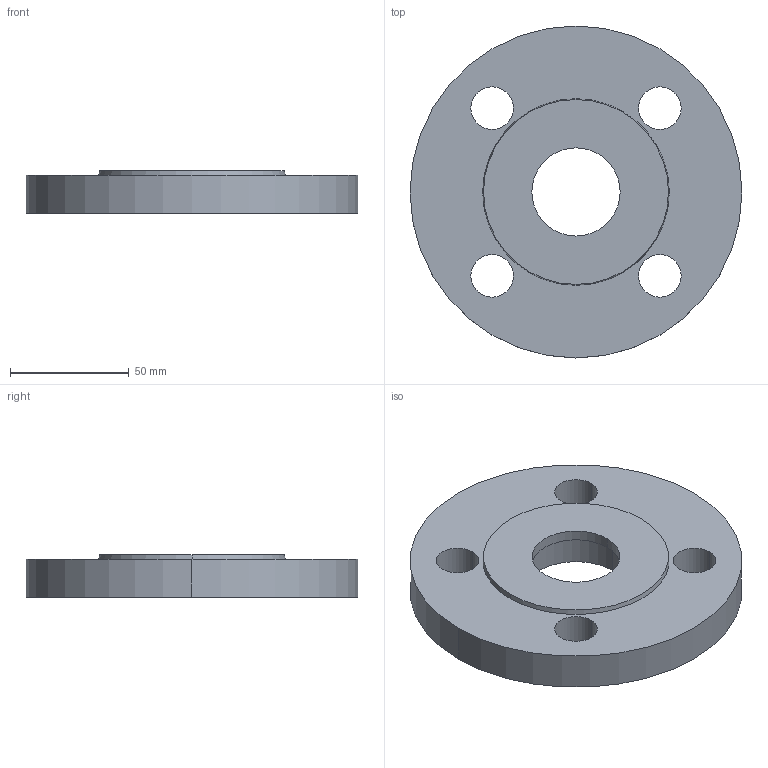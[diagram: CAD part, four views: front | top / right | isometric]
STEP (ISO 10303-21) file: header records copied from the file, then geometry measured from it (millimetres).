
FILE_DESCRIPTION (( 'STEP AP214' ), '1' );
FILE_NAME ('PN40 DN32 Type 05 - Socket (Type B) - Not in Standard.STEP', '2018-12-30T00:04:59', ( '' ), ( '' ), 'SwSTEP 2.0', 'SolidWorks 2019', '' );
FILE_SCHEMA (( 'AUTOMOTIVE_DESIGN' ));
Length unit declared in the file: millimetre
Products named in the file (1): PN40 DN32 Type 05 - Socket (Type B) - Not in Standard
Bounding box: 140 x 140 x 18 mm (x, y, z)
Volume: 214704.1 mm3; surface area: 40018.3 mm2
Topology: 1 solids, 1 shells, 20 faces, 48 edges, 32 vertices
Faces by surface type: cylinder 14, plane 4, cone 2
Entity records: 658 total; most frequent: DIRECTION 122, CARTESIAN_POINT 101, ORIENTED_EDGE 96, AXIS2_PLACEMENT_3D 53, EDGE_CURVE 48, EDGE_LOOP 32, VERTEX_POINT 32, CIRCLE 32
